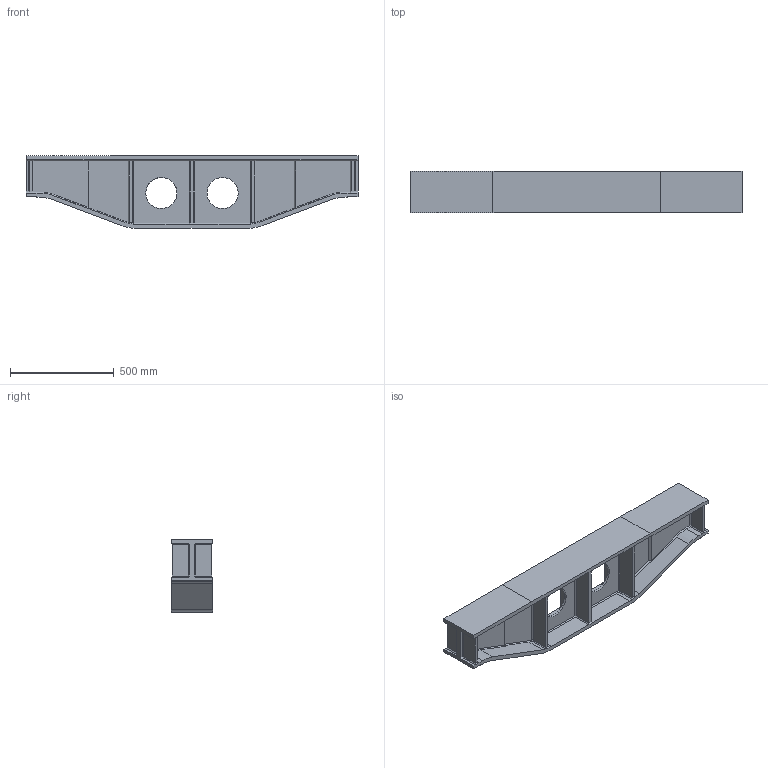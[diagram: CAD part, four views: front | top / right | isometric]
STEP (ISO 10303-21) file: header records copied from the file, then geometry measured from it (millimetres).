
FILE_DESCRIPTION((' '),'2;1');
FILE_NAME('C:\Users\stefanj\Documents\Autodesk Simulation\Tutorials\2013 Scrub\Datasets\Support Beam.stp','2012-03-15T10:50:06',(' '),(' '),' ','ACIS',' ');
FILE_SCHEMA(('CONFIG_CONTROL_DESIGN'));
Length unit declared in the file: millimetre
Products named in the file (1): C:\Users\stefanj\Documents\Autodesk Simulation\Tutorials\2013 Scrub\Datasets\Support Beam.stp
Bounding box: 1600 x 200 x 350 mm (x, y, z)
Volume: 21823459.7 mm3; surface area: 2525277.1 mm2
Topology: 1 solids, 1 shells, 290 faces, 682 edges, 394 vertices
Faces by surface type: plane 248, cylinder 18, cone 16, bspline 8
Full cylindrical faces by diameter (mm): 150 x2
Entity records: 8205 total; most frequent: CARTESIAN_POINT 1605, ORIENTED_EDGE 1356, DIRECTION 1288, EDGE_CURVE 678, VECTOR 578, LINE 578, VERTEX_POINT 392, AXIS2_PLACEMENT_3D 355
